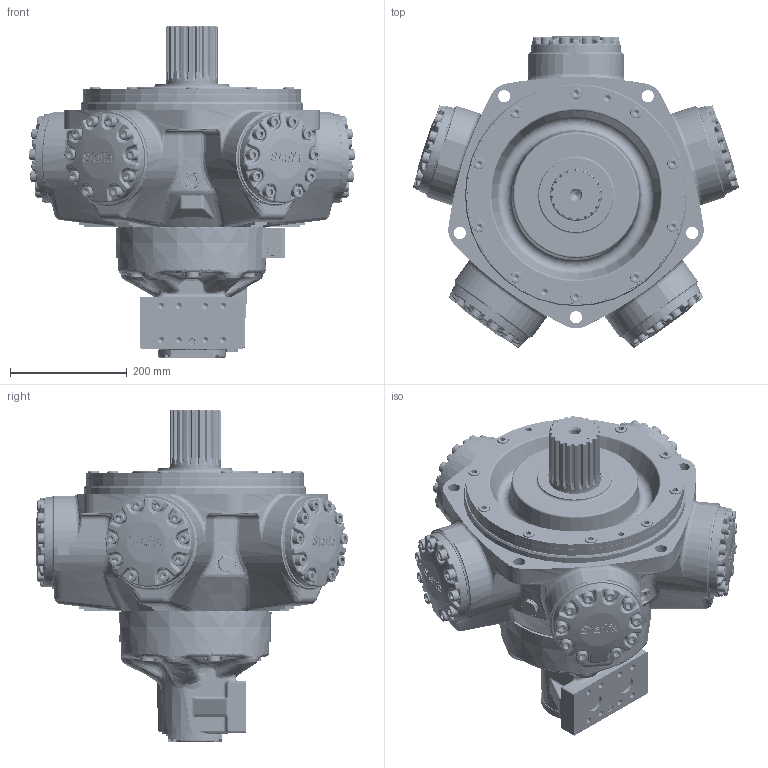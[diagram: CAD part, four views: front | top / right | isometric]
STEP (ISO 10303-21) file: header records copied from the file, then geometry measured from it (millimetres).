
FILE_DESCRIPTION(/* description */ (''),/* implementation_level */ '2;1');
FILE_NAME(/* name */ 'HMC 125_S3_SFM3_CS_72.stp',/* time_stamp */ '2025-04-23T16:34:12+01:00',/* author */ ('ccallanga'),/* organization */ (''),/* preprocessor_version */ 'ST-DEVELOPER v20',/* originating_system */ 'Autodesk Inventor 2024',/* authorisation */ '');
FILE_SCHEMA (('AUTOMOTIVE_DESIGN { 1 0 10303 214 3 1 1 }'));
Products named in the file (1): 017750 HMC125 WEBSITE ASSEMBLY_Simplify_1
Bounding box: 560.12 x 535.2 x 569.37 mm (x, y, z)
Volume: 41288960.8 mm3; surface area: 1118535.8 mm2
Topology: 1 solids, 1 shells, 5150 faces, 12532 edges, 7431 vertices
Faces by surface type: bspline 1872, plane 1288, cylinder 1148, torus 498, cone 219, sphere 125
Full cylindrical faces by diameter (mm): 2.2 x4, 4 x1, 4.134 x4, 5.5 x4, 6.5 x4, 7 x4, 9.4 x6, 10.25 x8, 11.328 x4, 11.913 x4, 12 x6, 12.7 x4, 16.51 x1, 17.323 x1, 19 x1, 19.05 x60, 20.637 x60, 21 x5, 23.825 x5, 25 x1, 25.4 x5, 26.92 x2, 28.75 x1, 32 x2, 38.1 x3, 68.58 x1, 87.889 x1, 88.837 x1, 92.964 x1, 127 x1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
Entity records: 231469 total; most frequent: CARTESIAN_POINT 119981, ORIENTED_EDGE 24564, DIRECTION 18117, EDGE_CURVE 12282, VERTEX_POINT 7431, AXIS2_PLACEMENT_3D 7209, EDGE_LOOP 5457, STYLED_ITEM 5151
